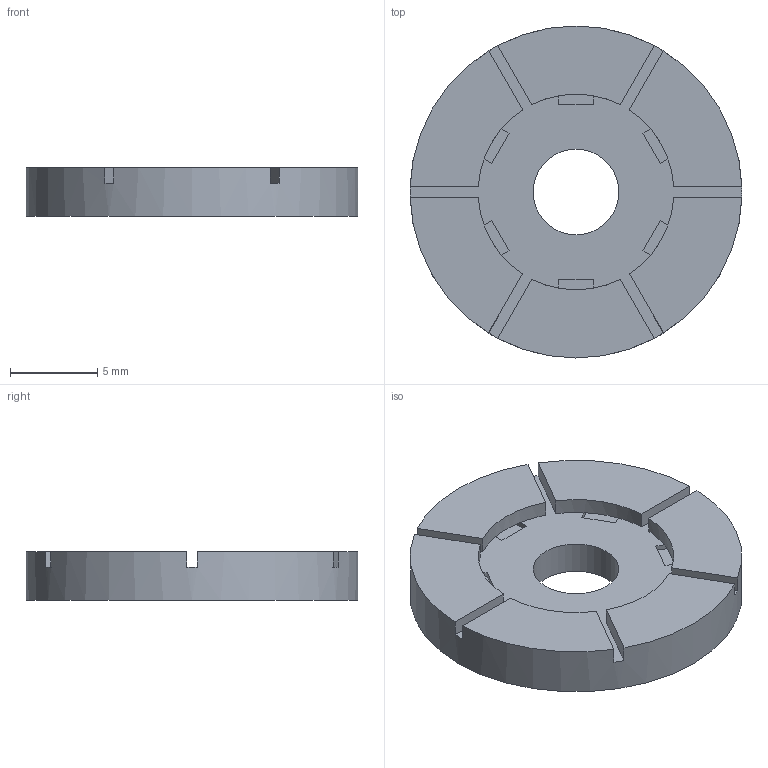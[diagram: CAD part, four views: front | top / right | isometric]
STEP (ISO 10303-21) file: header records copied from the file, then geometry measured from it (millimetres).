
FILE_DESCRIPTION(('Open CASCADE Model'),'2;1');
FILE_NAME('Open CASCADE Shape Model','2026-11-01T16:33:57',('Author'),( 'Open CASCADE'),'Open CASCADE STEP processor 8.0','build123d', 'Unknown');
FILE_SCHEMA(('AUTOMOTIVE_DESIGN { 1 0 10303 214 1 1 1 1 }'));
Length unit declared in the file: millimetre
Products named in the file (1): SOLID
Bounding box: 19 x 19 x 2.8 mm (x, y, z)
Volume: 645.9 mm3; surface area: 869.4 mm2
Topology: 1 solids, 1 shells, 64 faces, 174 edges, 112 vertices
Faces by surface type: plane 56, cylinder 8
Full cylindrical faces by diameter (mm): 4.9 x1, 19 x1
Entity records: 4140 total; most frequent: CARTESIAN_POINT 837, DIRECTION 554, ORIENTED_EDGE 348, PCURVE 348, DEFINITIONAL_REPRESENTATION 348, LINE 304, VECTOR 304, EDGE_CURVE 174
